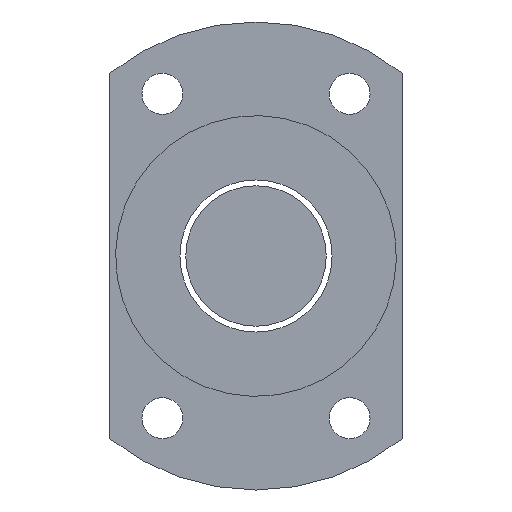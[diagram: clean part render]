
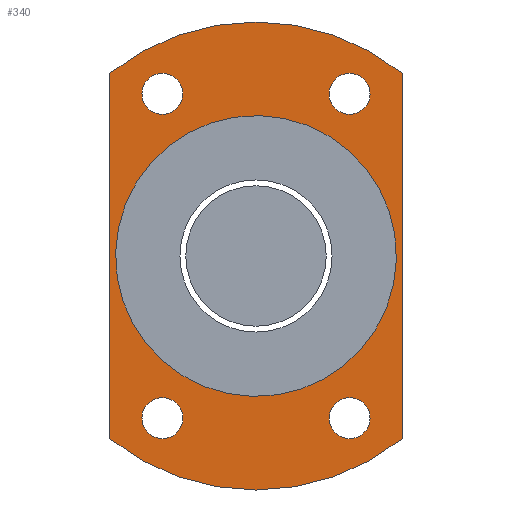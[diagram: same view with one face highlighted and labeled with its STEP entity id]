
A CAD part, left-side view. The second image highlights one B-rep face of the part: STEP entity #340.
In plain terms, the highlighted planar face has unit normal (-1, 0, 0).
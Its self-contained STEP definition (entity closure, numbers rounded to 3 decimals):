
#61=CARTESIAN_POINT('Vertex',(-6.,6.464,-13.017)) ;
#66=CARTESIAN_POINT('Axis2P3D Location',(-6.,8.,-13.856)) ;
#70=CARTESIAN_POINT('Vertex',(-6.,9.536,-14.695)) ;
#213=CARTESIAN_POINT('Axis2P3D Location',(-6.,8.,-13.856)) ;
#225=CARTESIAN_POINT('Axis2P3D Location',(-6.,0.,66.513)) ;
#230=CARTESIAN_POINT('Axis2P3D Location',(-6.,0.,0.)) ;
#234=CARTESIAN_POINT('Vertex',(-6.,-12.5,15.612)) ;
#236=CARTESIAN_POINT('Vertex',(-6.,12.5,15.612)) ;
#239=CARTESIAN_POINT('Line Origine',(-6.,12.5,0.)) ;
#243=CARTESIAN_POINT('Vertex',(-6.,12.5,-15.612)) ;
#246=CARTESIAN_POINT('Axis2P3D Location',(-6.,0.,0.)) ;
#250=CARTESIAN_POINT('Vertex',(-6.,-12.5,-15.612)) ;
#253=CARTESIAN_POINT('Line Origine',(-6.,-12.5,0.)) ;
#268=CARTESIAN_POINT('Axis2P3D Location',(-6.,-8.,-13.856)) ;
#272=CARTESIAN_POINT('Vertex',(-6.,-9.536,-13.017)) ;
#274=CARTESIAN_POINT('Vertex',(-6.,-6.464,-14.695)) ;
#277=CARTESIAN_POINT('Axis2P3D Location',(-6.,-8.,-13.856)) ;
#286=CARTESIAN_POINT('Axis2P3D Location',(-6.,-8.,13.856)) ;
#290=CARTESIAN_POINT('Vertex',(-6.,-9.536,14.695)) ;
#292=CARTESIAN_POINT('Vertex',(-6.,-6.464,13.017)) ;
#295=CARTESIAN_POINT('Axis2P3D Location',(-6.,-8.,13.856)) ;
#304=CARTESIAN_POINT('Axis2P3D Location',(-6.,8.,13.856)) ;
#308=CARTESIAN_POINT('Vertex',(-6.,9.536,13.017)) ;
#310=CARTESIAN_POINT('Vertex',(-6.,6.464,14.695)) ;
#313=CARTESIAN_POINT('Axis2P3D Location',(-6.,8.,13.856)) ;
#322=CARTESIAN_POINT('Axis2P3D Location',(-6.,0.,0.)) ;
#326=CARTESIAN_POINT('Vertex',(-6.,5.753,10.531)) ;
#328=CARTESIAN_POINT('Vertex',(-6.,-5.753,-10.531)) ;
#331=CARTESIAN_POINT('Axis2P3D Location',(-6.,0.,0.)) ;
#67=DIRECTION('Axis2P3D Direction',(-1.,0.,0.)) ;
#214=DIRECTION('Axis2P3D Direction',(-1.,0.,0.)) ;
#226=DIRECTION('Axis2P3D Direction',(-1.,0.,0.)) ;
#227=DIRECTION('Axis2P3D XDirection',(0.,1.,0.)) ;
#231=DIRECTION('Axis2P3D Direction',(-1.,0.,0.)) ;
#240=DIRECTION('Vector Direction',(0.,0.,1.)) ;
#247=DIRECTION('Axis2P3D Direction',(-1.,0.,0.)) ;
#254=DIRECTION('Vector Direction',(0.,0.,-1.)) ;
#269=DIRECTION('Axis2P3D Direction',(-1.,0.,0.)) ;
#278=DIRECTION('Axis2P3D Direction',(-1.,0.,0.)) ;
#287=DIRECTION('Axis2P3D Direction',(-1.,0.,0.)) ;
#296=DIRECTION('Axis2P3D Direction',(-1.,0.,0.)) ;
#305=DIRECTION('Axis2P3D Direction',(-1.,0.,0.)) ;
#314=DIRECTION('Axis2P3D Direction',(-1.,0.,0.)) ;
#323=DIRECTION('Axis2P3D Direction',(-1.,0.,0.)) ;
#332=DIRECTION('Axis2P3D Direction',(-1.,0.,0.)) ;
#68=AXIS2_PLACEMENT_3D('Circle Axis2P3D',#66,#67,$) ;
#215=AXIS2_PLACEMENT_3D('Circle Axis2P3D',#213,#214,$) ;
#228=AXIS2_PLACEMENT_3D('Plane Axis2P3D',#225,#226,#227) ;
#232=AXIS2_PLACEMENT_3D('Circle Axis2P3D',#230,#231,$) ;
#248=AXIS2_PLACEMENT_3D('Circle Axis2P3D',#246,#247,$) ;
#270=AXIS2_PLACEMENT_3D('Circle Axis2P3D',#268,#269,$) ;
#279=AXIS2_PLACEMENT_3D('Circle Axis2P3D',#277,#278,$) ;
#288=AXIS2_PLACEMENT_3D('Circle Axis2P3D',#286,#287,$) ;
#297=AXIS2_PLACEMENT_3D('Circle Axis2P3D',#295,#296,$) ;
#306=AXIS2_PLACEMENT_3D('Circle Axis2P3D',#304,#305,$) ;
#315=AXIS2_PLACEMENT_3D('Circle Axis2P3D',#313,#314,$) ;
#324=AXIS2_PLACEMENT_3D('Circle Axis2P3D',#322,#323,$) ;
#333=AXIS2_PLACEMENT_3D('Circle Axis2P3D',#331,#332,$) ;
#259=ORIENTED_EDGE('',*,*,#238,.T.) ;
#260=ORIENTED_EDGE('',*,*,#245,.F.) ;
#261=ORIENTED_EDGE('',*,*,#252,.T.) ;
#262=ORIENTED_EDGE('',*,*,#257,.F.) ;
#265=ORIENTED_EDGE('',*,*,#217,.F.) ;
#266=ORIENTED_EDGE('',*,*,#72,.F.) ;
#283=ORIENTED_EDGE('',*,*,#276,.F.) ;
#284=ORIENTED_EDGE('',*,*,#281,.F.) ;
#301=ORIENTED_EDGE('',*,*,#294,.F.) ;
#302=ORIENTED_EDGE('',*,*,#299,.F.) ;
#319=ORIENTED_EDGE('',*,*,#312,.F.) ;
#320=ORIENTED_EDGE('',*,*,#317,.F.) ;
#337=ORIENTED_EDGE('',*,*,#330,.F.) ;
#338=ORIENTED_EDGE('',*,*,#335,.F.) ;
#267=FACE_BOUND('',#264,.T.) ;
#285=FACE_BOUND('',#282,.T.) ;
#303=FACE_BOUND('',#300,.T.) ;
#321=FACE_BOUND('',#318,.T.) ;
#339=FACE_BOUND('',#336,.T.) ;
#241=VECTOR('Line Direction',#240,1.) ;
#255=VECTOR('Line Direction',#254,1.) ;
#340=ADVANCED_FACE('NUT',(#263,#267,#285,#303,#321,#339),#229,.T.) ;
#69=CIRCLE('generated circle',#68,1.75) ;
#216=CIRCLE('generated circle',#215,1.75) ;
#233=CIRCLE('generated circle',#232,20.) ;
#249=CIRCLE('generated circle',#248,20.) ;
#271=CIRCLE('generated circle',#270,1.75) ;
#280=CIRCLE('generated circle',#279,1.75) ;
#289=CIRCLE('generated circle',#288,1.75) ;
#298=CIRCLE('generated circle',#297,1.75) ;
#307=CIRCLE('generated circle',#306,1.75) ;
#316=CIRCLE('generated circle',#315,1.75) ;
#325=CIRCLE('generated circle',#324,12.) ;
#334=CIRCLE('generated circle',#333,12.) ;
#72=EDGE_CURVE('',#62,#71,#69,.T.) ;
#217=EDGE_CURVE('',#71,#62,#216,.T.) ;
#238=EDGE_CURVE('',#235,#237,#233,.T.) ;
#245=EDGE_CURVE('',#244,#237,#242,.T.) ;
#252=EDGE_CURVE('',#244,#251,#249,.T.) ;
#257=EDGE_CURVE('',#235,#251,#256,.T.) ;
#276=EDGE_CURVE('',#273,#275,#271,.T.) ;
#281=EDGE_CURVE('',#275,#273,#280,.T.) ;
#294=EDGE_CURVE('',#291,#293,#289,.T.) ;
#299=EDGE_CURVE('',#293,#291,#298,.T.) ;
#312=EDGE_CURVE('',#309,#311,#307,.T.) ;
#317=EDGE_CURVE('',#311,#309,#316,.T.) ;
#330=EDGE_CURVE('',#327,#329,#325,.T.) ;
#335=EDGE_CURVE('',#329,#327,#334,.T.) ;
#258=EDGE_LOOP('',(#259,#260,#261,#262)) ;
#264=EDGE_LOOP('',(#265,#266)) ;
#282=EDGE_LOOP('',(#283,#284)) ;
#300=EDGE_LOOP('',(#301,#302)) ;
#318=EDGE_LOOP('',(#319,#320)) ;
#336=EDGE_LOOP('',(#337,#338)) ;
#263=FACE_OUTER_BOUND('',#258,.T.) ;
#242=LINE('Line',#239,#241) ;
#256=LINE('Line',#253,#255) ;
#229=PLANE('',#228) ;
#62=VERTEX_POINT('',#61) ;
#71=VERTEX_POINT('',#70) ;
#235=VERTEX_POINT('',#234) ;
#237=VERTEX_POINT('',#236) ;
#244=VERTEX_POINT('',#243) ;
#251=VERTEX_POINT('',#250) ;
#273=VERTEX_POINT('',#272) ;
#275=VERTEX_POINT('',#274) ;
#291=VERTEX_POINT('',#290) ;
#293=VERTEX_POINT('',#292) ;
#309=VERTEX_POINT('',#308) ;
#311=VERTEX_POINT('',#310) ;
#327=VERTEX_POINT('',#326) ;
#329=VERTEX_POINT('',#328) ;
